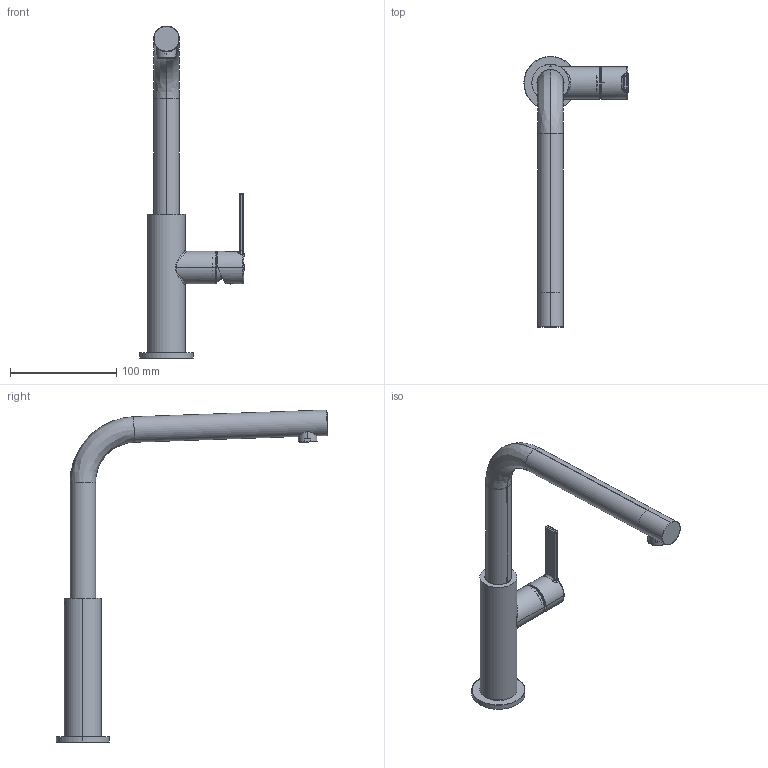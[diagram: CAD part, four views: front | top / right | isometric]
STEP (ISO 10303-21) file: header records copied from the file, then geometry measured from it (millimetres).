
FILE_DESCRIPTION(/* description */ (''),/* implementation_level */ '2;1');
FILE_NAME(/* name */ '3D001_Taps_Maris-Slim_L-Swivel-Spout',/* time_stamp */ '2026-08-04T16:21:56+02:00',/* author */ (''),/* organization */ (''),/* preprocessor_version */ 'ST-DEVELOPER v19.2',/* originating_system */ 'Rhino 8.31',/* authorisation */ '');
FILE_SCHEMA (('CONFIG_CONTROL_DESIGN'));
Length unit declared in the file: millimetre
Products named in the file (13): Document; S_PRG_GE01722_0002_TUBO_AF0; S_AE_03016_CORPO_AF010; S_AE_03016_GUARN_AF02; SBU050801 01; SMN603190 01; SGU151110 01; SMN602580 01; SMM254610 01; SBU050510 01; SMN604720 01; SZA601910 01; SMM256440 01
Bounding box: 97.95 x 255.41 x 312.21 mm (x, y, z)
Volume: 48299.4 mm3; surface area: 94701.4 mm2
Topology: 19 solids, 32 shells, 2374 faces, 5368 edges, 3051 vertices
Faces by surface type: plane 1170, bspline 878, cylinder 326
Entity records: 85061 total; most frequent: CARTESIAN_POINT 45716, ORIENTED_EDGE 10616, EDGE_CURVE 5344, B_SPLINE_CURVE_WITH_KNOTS 3883, VERTEX_POINT 3051, DIRECTION 2918, EDGE_LOOP 2447, ADVANCED_FACE 2374
